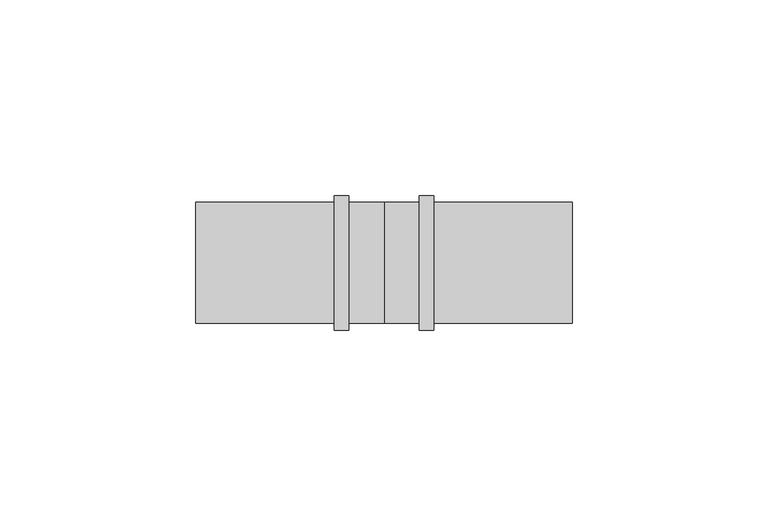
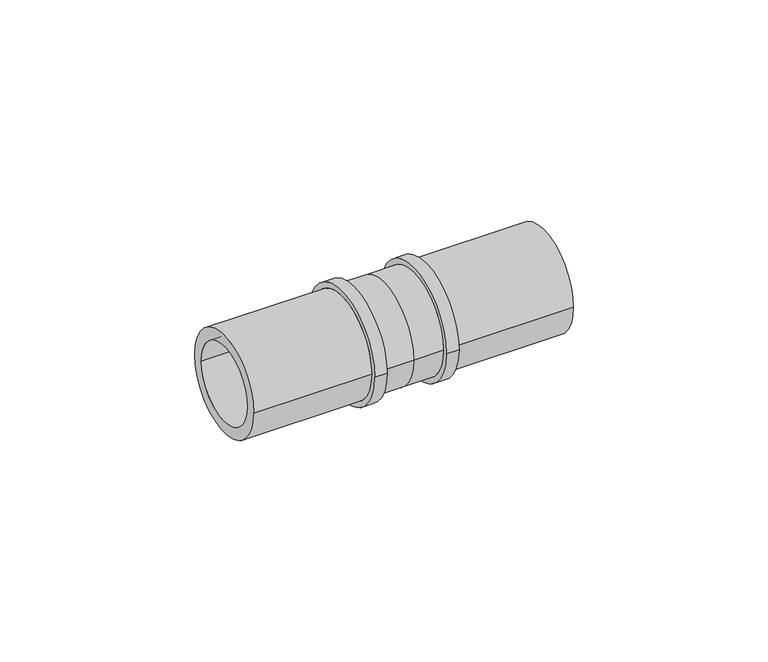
"""IFC4 building model written with IfcOpenShell, lengths in millimetres: pipe fitting geometry, FASTLOC_Coupling equal LX : FSL C LX PL."""

from ifc_helpers import new_model, si_unit, frame, origin, place, context, project, spatial, polyline, circle_curve, source, transform, mapped, element, save
from ifc_brep_helpers import plane_surface, cylinder_surface, revolved_surface, advanced_brep


def pipe_fitting_fbe8b16e(model_context):
    return source(origin(), model_context, "Body", "AdvancedBrep", [
        advanced_brep(
        [(12.7, 17.2, 0.0), (12.7, -17.2, 0.0), (9.0, -17.2, 0.0), (9.0, 17.2, 0.0), (48.2, 15.5, 0.0), (48.2, -15.5, 0.0), (12.7, -15.5, 0.0), (12.7, 15.5, 0.0), (-48.2, 11.95, 0.0), (-48.2, -11.95, 0.0), (48.2, -11.95, 0.0), (48.2, 11.95, 0.0), (-12.7, 15.5, 0.0), (-12.7, -15.5, 0.0), (-48.2, -15.5, 0.0), (-48.2, 15.5, 0.0), (-9.0, 17.2, 0.0), (-9.0, -17.2, 0.0), (-12.7, -17.2, 0.0), (-12.7, 17.2, 0.0), (0.0, 15.5, 0.0), (0.0, -15.5, 0.0), (-9.0, -15.5, 0.0), (-9.0, 15.5, 0.0), (9.0, 15.5, 0.0), (9.0, -15.5, 0.0)],
        [
            (0, 1, circle_curve(frame((12.7, 0.0, 0.0), z_axis=(-1.0, 0.0, 0.0), x_axis=(0.0, -1.0, 0.0)), 17.2)),
            (1, 2),
            (2, 3, circle_curve(frame((9.0, 0.0, 0.0), z_axis=(1.0, 0.0, 0.0), x_axis=(0.0, -1.0, 0.0)), 17.2)),
            (3, 0),
            (4, 5, circle_curve(frame((48.2, 0.0, 0.0), z_axis=(-1.0, 0.0, 0.0), x_axis=(0.0, -1.0, 0.0)), 15.5)),
            (5, 6),
            (6, 7, circle_curve(frame((12.7, 0.0, 0.0), z_axis=(1.0, 0.0, 0.0), x_axis=(0.0, -1.0, 0.0)), 15.5)),
            (7, 4),
            (8, 9, circle_curve(frame((-48.2, 0.0, 0.0), z_axis=(-1.0, 0.0, 0.0), x_axis=(0.0, -1.0, 0.0)), 11.95)),
            (9, 10),
            (10, 11, circle_curve(frame((48.2, 0.0, 0.0), z_axis=(1.0, 0.0, 0.0), x_axis=(0.0, -1.0, 0.0)), 11.95)),
            (11, 8),
            (12, 13, circle_curve(frame((-12.7, 0.0, 0.0), z_axis=(-1.0, 0.0, 0.0), x_axis=(0.0, -1.0, 0.0)), 15.5)),
            (13, 14),
            (14, 15, circle_curve(frame((-48.2, 0.0, 0.0), z_axis=(1.0, 0.0, 0.0), x_axis=(0.0, -1.0, 0.0)), 15.5)),
            (15, 12),
            (16, 17, circle_curve(frame((-9.0, 0.0, 0.0), z_axis=(-1.0, 0.0, 0.0), x_axis=(0.0, -1.0, 0.0)), 17.2)),
            (17, 18),
            (18, 19, circle_curve(frame((-12.7, 0.0, 0.0), z_axis=(1.0, 0.0, 0.0), x_axis=(0.0, -1.0, 0.0)), 17.2)),
            (19, 16),
            (20, 21, circle_curve(frame((0.0, 0.0, 0.0), z_axis=(-1.0, 0.0, 0.0), x_axis=(0.0, -1.0, 0.0)), 15.5)),
            (21, 22),
            (22, 23, circle_curve(frame((-9.0, 0.0, 0.0), z_axis=(1.0, 0.0, 0.0), x_axis=(0.0, -1.0, 0.0)), 15.5)),
            (23, 20),
            (24, 25, circle_curve(frame((9.0, 0.0, 0.0), z_axis=(-1.0, 0.0, 0.0), x_axis=(0.0, -1.0, 0.0)), 15.5)),
            (25, 21),
            (20, 24),
            (1, 0, circle_curve(frame((12.7, 0.0, 0.0), z_axis=(-1.0, 0.0, 0.0), x_axis=(0.0, 1.0, 0.0)), 17.2)),
            (3, 2, circle_curve(frame((9.0, 0.0, 0.0), z_axis=(1.0, 0.0, 0.0), x_axis=(0.0, 1.0, 0.0)), 17.2)),
            (6, 7, circle_curve(frame((12.7, 0.0, 0.0), z_axis=(-1.0, 0.0, 0.0), x_axis=(0.0, 1.0, 0.0)), 15.5)),
            (5, 4, circle_curve(frame((48.2, 0.0, 0.0), z_axis=(-1.0, 0.0, 0.0), x_axis=(0.0, 1.0, 0.0)), 15.5)),
            (10, 11, circle_curve(frame((48.2, 0.0, 0.0), z_axis=(-1.0, 0.0, 0.0), x_axis=(0.0, 1.0, 0.0)), 11.95)),
            (9, 8, circle_curve(frame((-48.2, 0.0, 0.0), z_axis=(-1.0, 0.0, 0.0), x_axis=(0.0, 1.0, 0.0)), 11.95)),
            (14, 15, circle_curve(frame((-48.2, 0.0, 0.0), z_axis=(-1.0, 0.0, 0.0), x_axis=(0.0, 1.0, 0.0)), 15.5)),
            (13, 12, circle_curve(frame((-12.7, 0.0, 0.0), z_axis=(-1.0, 0.0, 0.0), x_axis=(0.0, 1.0, 0.0)), 15.5)),
            (18, 19, circle_curve(frame((-12.7, 0.0, 0.0), z_axis=(-1.0, 0.0, 0.0), x_axis=(0.0, 1.0, 0.0)), 17.2)),
            (17, 16, circle_curve(frame((-9.0, 0.0, 0.0), z_axis=(-1.0, 0.0, 0.0), x_axis=(0.0, 1.0, 0.0)), 17.2)),
            (22, 23, circle_curve(frame((-9.0, 0.0, 0.0), z_axis=(-1.0, 0.0, 0.0), x_axis=(0.0, 1.0, 0.0)), 15.5)),
            (21, 20, circle_curve(frame((0.0, 0.0, 0.0), z_axis=(-1.0, 0.0, 0.0), x_axis=(0.0, 1.0, 0.0)), 15.5)),
            (25, 24, circle_curve(frame((9.0, 0.0, 0.0), z_axis=(-1.0, 0.0, 0.0), x_axis=(0.0, 1.0, 0.0)), 15.5)),
        ],
        [
            cylinder_surface(frame((0.0, 0.0, 0.0), z_axis=(1.0, 0.0, 0.0), x_axis=(0.0, -1.0, 0.0)), 17.2),
            cylinder_surface(frame((0.0, 0.0, 0.0), z_axis=(1.0, 0.0, 0.0), x_axis=(0.0, -1.0, 0.0)), 15.5),
            revolved_surface(polyline([(48.2, -11.95, 0.0), (-48.2, -11.95, 0.0)]), (0.0, 0.0, 0.0), (1.0, 0.0, 0.0)),
            cylinder_surface(frame((0.0, 0.0, 0.0), z_axis=(1.0, 0.0, 0.0), x_axis=(0.0, 1.0, 0.0)), 17.2),
            plane_surface(frame((12.7, 0.0, 0.0), z_axis=(1.0, 0.0, 0.0), x_axis=(0.0, 1.0, 0.0))),
            cylinder_surface(frame((0.0, 0.0, 0.0), z_axis=(1.0, 0.0, 0.0), x_axis=(0.0, 1.0, 0.0)), 15.5),
            plane_surface(frame((48.2, 0.0, 0.0), z_axis=(1.0, 0.0, 0.0), x_axis=(0.0, 1.0, 0.0))),
            revolved_surface(polyline([(48.2, 11.95, 0.0), (-48.2, 11.95, 0.0)]), (0.0, 0.0, 0.0), (1.0, 0.0, 0.0)),
            plane_surface(frame((-48.2, 0.0, 0.0), z_axis=(-1.0, 0.0, 0.0), x_axis=(0.0, 1.0, 0.0))),
            plane_surface(frame((-12.7, 0.0, 0.0), z_axis=(-1.0, 0.0, 0.0), x_axis=(0.0, 1.0, 0.0))),
            plane_surface(frame((-9.0, 0.0, 0.0), z_axis=(1.0, 0.0, 0.0), x_axis=(0.0, 1.0, 0.0))),
            plane_surface(frame((9.0, 0.0, 0.0), z_axis=(-1.0, 0.0, 0.0), x_axis=(0.0, 1.0, 0.0))),
        ],
        [
            (0, [[1, 2, 3, 4]]),
            (1, [[5, 6, 7, 8]]),
            (2, [[9, 10, 11, 12]]),
            (1, [[13, 14, 15, 16]]),
            (0, [[17, 18, 19, 20]]),
            (1, [[21, 22, 23, 24]]),
            (1, [[25, 26, -21, 27]]),
            (3, [[28, -4, 29, -2]]),
            (4, [[-28, -1], [30, -7]]),
            (5, [[31, -8, -30, -6]]),
            (6, [[-31, -5], [32, -11]]),
            (7, [[33, -12, -32, -10]]),
            (8, [[34, -15], [-33, -9]]),
            (5, [[35, -16, -34, -14]]),
            (9, [[36, -19], [-35, -13]]),
            (3, [[37, -20, -36, -18]]),
            (10, [[-37, -17], [38, -23]]),
            (5, [[39, -24, -38, -22]]),
            (5, [[40, -27, -39, -26]]),
            (11, [[-29, -3], [-40, -25]]),
        ],
    ),
    ])


if __name__ == "__main__":
    model = new_model("IFC4")
    model_context = context("Model", 3, world=origin())
    ifc_project = project(units=[si_unit("LENGTHUNIT", "METRE", prefix="MILLI")], contexts=[model_context])
    site = spatial("IfcSite", under=ifc_project)
    building = spatial("IfcBuilding", under=site)
    placement = place(None, origin())
    pipe_fitting_shape = pipe_fitting_fbe8b16e(model_context)
    element("IfcPipeFitting", 1, ObjectType="FASTLOC_Coupling equal LX : FSL C LX PL", at=placement, inside=building, context=model_context, shape_type="MappedRepresentation", body=[
        mapped(pipe_fitting_shape, transform((0.0, 0.0, 0.0), x_axis=(1.0, 0.0, 0.0), y_axis=(0.0, 1.0, 0.0), z_axis=(0.0, 0.0, 1.0))),
    ])
    save(model, "model.ifc")
